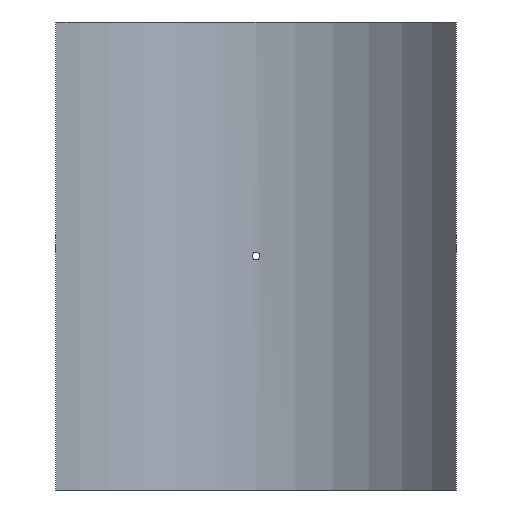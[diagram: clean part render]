
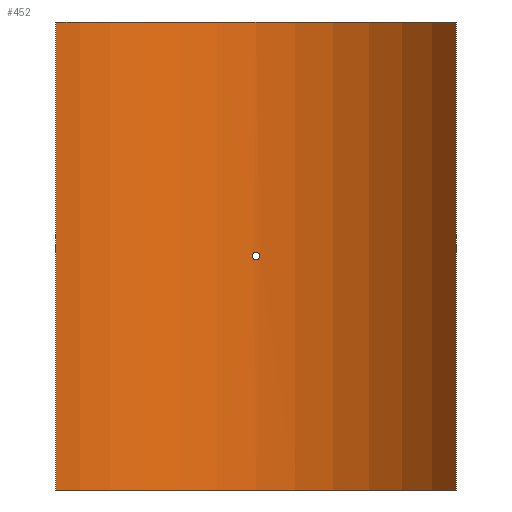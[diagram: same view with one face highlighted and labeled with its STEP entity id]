
A CAD part, front view. The second image highlights one B-rep face of the part: STEP entity #452.
In plain terms, the highlighted cylindrical face has radius 315 mm (diameter 630 mm), a partial arc.
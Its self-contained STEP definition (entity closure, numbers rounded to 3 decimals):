
#19=B_SPLINE_CURVE_WITH_KNOTS('',3,(#788,#789,#790,#791,#792,#793,#794,
#795,#796,#797,#798,#799,#800,#801,#802,#803,#804,#805,#806,#807,#808,#809,
#810,#811,#812,#813,#814,#815,#816,#817,#818,#819,#820,#821),
 .UNSPECIFIED.,.T.,.F.,(4,2,2,2,2,2,2,2,2,2,2,2,2,2,2,2,4),(0.,0.181,
0.362,0.542,0.723,0.904,
1.085,1.266,1.447,1.627,1.808,
1.989,2.17,2.351,2.531,2.712,
2.893),.UNSPECIFIED.);
#43=LINE('',#1097,#62);
#44=LINE('',#1100,#63);
#62=VECTOR('',#661,10.);
#63=VECTOR('',#664,10.);
#76=CYLINDRICAL_SURFACE('',#530,315.);
#88=FACE_BOUND('',#167,.T.);
#127=FACE_OUTER_BOUND('',#166,.T.);
#166=EDGE_LOOP('',(#405,#406,#407,#408));
#167=EDGE_LOOP('',(#409));
#201=CIRCLE('',#529,315.);
#202=CIRCLE('',#531,315.);
#219=VERTEX_POINT('',#786);
#242=VERTEX_POINT('',#1090);
#243=VERTEX_POINT('',#1092);
#244=VERTEX_POINT('',#1096);
#245=VERTEX_POINT('',#1098);
#267=EDGE_CURVE('',#219,#219,#19,.T.);
#299=EDGE_CURVE('',#242,#243,#201,.T.);
#301=EDGE_CURVE('',#244,#242,#43,.T.);
#302=EDGE_CURVE('',#245,#244,#202,.T.);
#303=EDGE_CURVE('',#245,#243,#44,.T.);
#405=ORIENTED_EDGE('',*,*,#301,.F.);
#406=ORIENTED_EDGE('',*,*,#302,.F.);
#407=ORIENTED_EDGE('',*,*,#303,.T.);
#408=ORIENTED_EDGE('',*,*,#299,.F.);
#409=ORIENTED_EDGE('',*,*,#267,.T.);
#452=ADVANCED_FACE('',(#127,#88),#76,.F.);
#529=AXIS2_PLACEMENT_3D('',#1093,#656,#657);
#530=AXIS2_PLACEMENT_3D('',#1095,#659,#660);
#531=AXIS2_PLACEMENT_3D('',#1099,#662,#663);
#656=DIRECTION('center_axis',(0.,0.,1.));
#657=DIRECTION('ref_axis',(0.829,0.56,0.));
#659=DIRECTION('center_axis',(0.,0.,1.));
#660=DIRECTION('ref_axis',(0.829,0.56,0.));
#661=DIRECTION('',(0.,0.,-1.));
#662=DIRECTION('center_axis',(0.,0.,-1.));
#663=DIRECTION('ref_axis',(0.829,0.56,0.));
#664=DIRECTION('',(0.,0.,-1.));
#786=CARTESIAN_POINT('',(4.8,314.963,0.));
#788=CARTESIAN_POINT('Ctrl Pts',(4.8,314.963,0.));
#789=CARTESIAN_POINT('Ctrl Pts',(4.8,314.963,-0.603));
#790=CARTESIAN_POINT('Ctrl Pts',(4.68,314.965,-1.246));
#791=CARTESIAN_POINT('Ctrl Pts',(4.19,314.972,-2.428));
#792=CARTESIAN_POINT('Ctrl Pts',(3.82,314.977,-2.968));
#793=CARTESIAN_POINT('Ctrl Pts',(2.968,314.986,-3.82));
#794=CARTESIAN_POINT('Ctrl Pts',(2.428,314.991,-4.19));
#795=CARTESIAN_POINT('Ctrl Pts',(1.246,314.998,-4.68));
#796=CARTESIAN_POINT('Ctrl Pts',(0.603,315.,-4.8));
#797=CARTESIAN_POINT('Ctrl Pts',(-0.603,315.,-4.8));
#798=CARTESIAN_POINT('Ctrl Pts',(-1.246,314.998,-4.68));
#799=CARTESIAN_POINT('Ctrl Pts',(-2.428,314.991,-4.19));
#800=CARTESIAN_POINT('Ctrl Pts',(-2.968,314.986,-3.82));
#801=CARTESIAN_POINT('Ctrl Pts',(-3.82,314.977,-2.968));
#802=CARTESIAN_POINT('Ctrl Pts',(-4.19,314.972,-2.428));
#803=CARTESIAN_POINT('Ctrl Pts',(-4.68,314.965,-1.246));
#804=CARTESIAN_POINT('Ctrl Pts',(-4.8,314.963,-0.603));
#805=CARTESIAN_POINT('Ctrl Pts',(-4.8,314.963,0.603));
#806=CARTESIAN_POINT('Ctrl Pts',(-4.68,314.965,1.246));
#807=CARTESIAN_POINT('Ctrl Pts',(-4.19,314.972,2.428));
#808=CARTESIAN_POINT('Ctrl Pts',(-3.82,314.977,2.968));
#809=CARTESIAN_POINT('Ctrl Pts',(-2.968,314.986,3.82));
#810=CARTESIAN_POINT('Ctrl Pts',(-2.428,314.991,4.19));
#811=CARTESIAN_POINT('Ctrl Pts',(-1.246,314.998,4.68));
#812=CARTESIAN_POINT('Ctrl Pts',(-0.603,315.,4.8));
#813=CARTESIAN_POINT('Ctrl Pts',(0.603,315.,4.8));
#814=CARTESIAN_POINT('Ctrl Pts',(1.246,314.998,4.68));
#815=CARTESIAN_POINT('Ctrl Pts',(2.428,314.991,4.19));
#816=CARTESIAN_POINT('Ctrl Pts',(2.968,314.986,3.82));
#817=CARTESIAN_POINT('Ctrl Pts',(3.82,314.977,2.968));
#818=CARTESIAN_POINT('Ctrl Pts',(4.19,314.972,2.428));
#819=CARTESIAN_POINT('Ctrl Pts',(4.68,314.965,1.246));
#820=CARTESIAN_POINT('Ctrl Pts',(4.8,314.963,0.603));
#821=CARTESIAN_POINT('Ctrl Pts',(4.8,314.963,0.));
#1090=CARTESIAN_POINT('',(261.,176.363,-305.));
#1092=CARTESIAN_POINT('',(-261.,176.363,-305.));
#1093=CARTESIAN_POINT('Origin',(0.,0.,
-305.));
#1095=CARTESIAN_POINT('Origin',(0.,0.,
0.));
#1096=CARTESIAN_POINT('',(261.,176.363,305.));
#1097=CARTESIAN_POINT('',(261.,176.363,0.));
#1098=CARTESIAN_POINT('',(-261.,176.363,305.));
#1099=CARTESIAN_POINT('Origin',(0.,0.,
305.));
#1100=CARTESIAN_POINT('',(-261.,176.363,0.));
